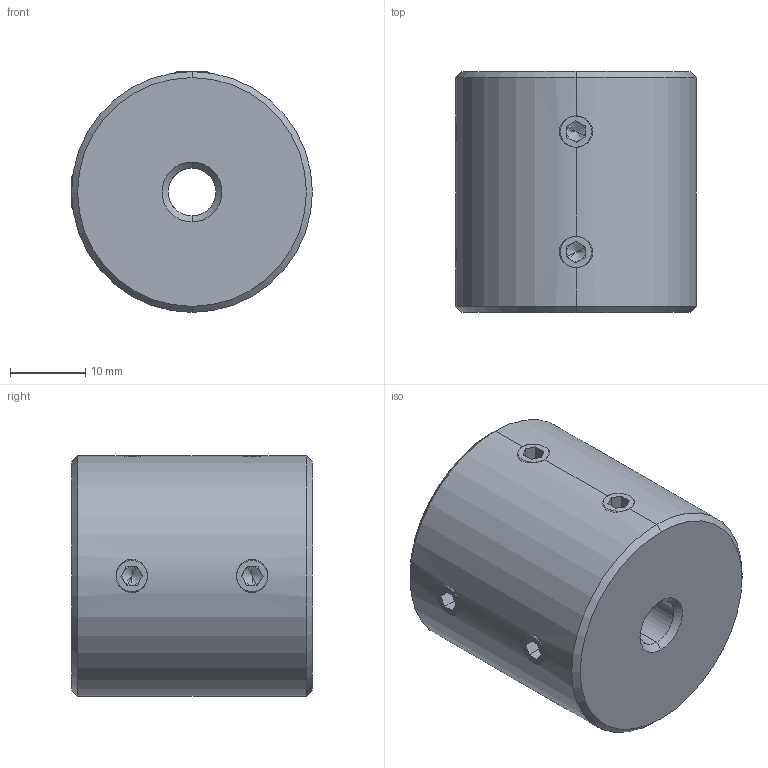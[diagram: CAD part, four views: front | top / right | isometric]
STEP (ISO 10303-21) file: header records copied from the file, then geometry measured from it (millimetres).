
FILE_DESCRIPTION (( 'STEP AP214' ), '1' );
FILE_NAME ('LL-D-D32L32-6.35-6.35½¨Ä£.STEP', '2022-07-22T11:20:52', ( '' ), ( '' ), 'SwSTEP 2.0', 'SolidWorks 2022', '' );
FILE_SCHEMA (( 'AUTOMOTIVE_DESIGN' ));
Length unit declared in the file: millimetre
Products named in the file (1): LL-D-D32L32-6.35-6.35膘耀
Bounding box: 32 x 32 x 32 mm (x, y, z)
Volume: 24318.7 mm3; surface area: 5658.6 mm2
Topology: 1 solids, 1 shells, 110 faces, 280 edges, 172 vertices
Faces by surface type: plane 58, cone 32, cylinder 20
Entity records: 3666 total; most frequent: CARTESIAN_POINT 1023, ORIENTED_EDGE 544, DIRECTION 542, EDGE_CURVE 272, AXIS2_PLACEMENT_3D 199, VERTEX_POINT 172, VECTOR 144, LINE 144
